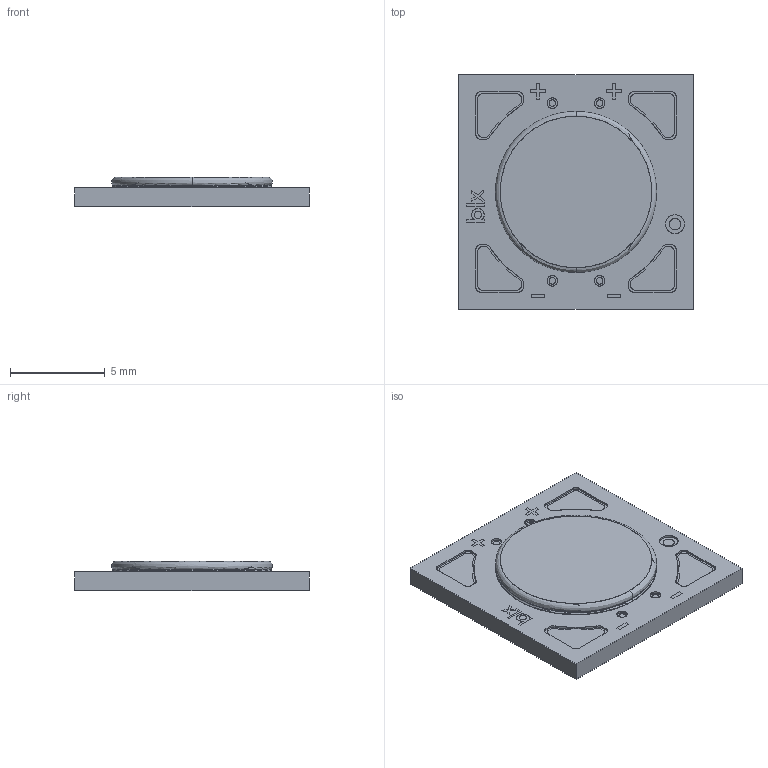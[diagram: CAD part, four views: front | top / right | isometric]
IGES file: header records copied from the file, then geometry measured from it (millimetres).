
Start section: SolidWorks IGES file using analytic representation for surfaces
Global section: file name: D:\Users\5160206\Desktop\3D document\Vesta\NTW&DW Series\DW GEN3\DW6 GEN3\DW6 GEN3 Assemble.IGS; native system: SolidWorks 2018; preprocessor: SolidWorks 2018; author: 5160206; date: 250225.131605; units: millimetre
Bounding box: 12.4 x 12.4 x 1.55 mm (x, y, z)
Surface area: 375 mm2 (no closed solid volume)
Topology: 0 solids, 0 shells, 213 faces, 1716 edges, 1716 vertices
Faces by surface type: bspline 141, revolution 72
